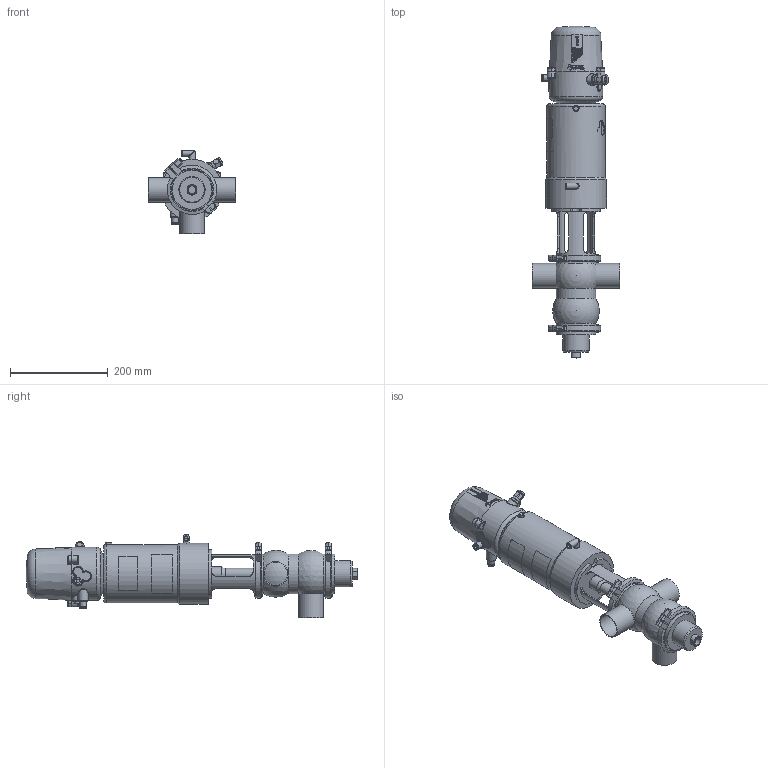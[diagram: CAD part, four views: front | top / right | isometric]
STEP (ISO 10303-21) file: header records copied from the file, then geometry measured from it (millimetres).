
FILE_DESCRIPTION (( 'STEP AP214' ), '1' );
FILE_NAME ('INNOVA S AB-90 W OD 2 & C-TOP S_10.251.16.0011.STEP', '2024-08-19T11:02:19', ( '' ), ( '' ), 'SwSTEP 2.0', 'SolidWorks 2023', '' );
FILE_SCHEMA (( 'AUTOMOTIVE_DESIGN' ));
Length unit declared in the file: millimetre
Products named in the file (7): 10.250.15.0002_Type S T1; 10.251.15.0002_DN 2"; 10.251.15.0001_OD 2"; 10.251.15.0003_OD 2"; 10.426.15.0001_C-TOP S - 1 EV; 10.240.15.0001_DN 050; INNOVA S AB-90 W OD 2 & C-TOP S_10.251.16.0011
Assembly tree (7 placements, depth 2):
  INNOVA S AB-90 W OD 2 & C-TOP S_10.251.16.0011
    10.251.15.0001_OD 2"
    10.250.15.0002_Type S T1
    10.426.15.0001_C-TOP S - 1 EV
    10.251.15.0003_OD 2"
    10.240.15.0001_DN 050  x2
    10.251.15.0002_DN 2"
Bounding box: 180 x 680 x 171 mm (x, y, z)
Volume: 5200730.8 mm3; surface area: 399082.6 mm2
Topology: 7 solids, 7 shells, 1190 faces, 2873 edges, 1908 vertices
Faces by surface type: plane 414, cylinder 372, cone 202, bspline 160, torus 33, sphere 9
Full cylindrical faces by diameter (mm): 0.371 x17, 0.512 x16, 0.658 x16, 0.795 x16, 0.94 x15, 1.098 x15, 1.241 x13, 1.382 x13, 1.523 x11, 1.669 x10, 2.201 x1, 4.2 x2, 5 x1, 5.5 x2, 6 x3, 6.15 x1, 8 x5, 8.5 x1, 10 x1, 10.5 x2, 11 x2, 12.5 x6, 13 x2, 13.5 x2, 16 x1, 17 x3, 20 x2, 22 x2, 23 x1, 28 x1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
Entity records: 58348 total; most frequent: CARTESIAN_POINT 27472, ORIENTED_EDGE 4604, DIRECTION 3719, EDGE_CURVE 2302, VERTEX_POINT 1629, EDGE_LOOP 1585, AXIS2_PLACEMENT_3D 1517, FACE_OUTER_BOUND 1346
